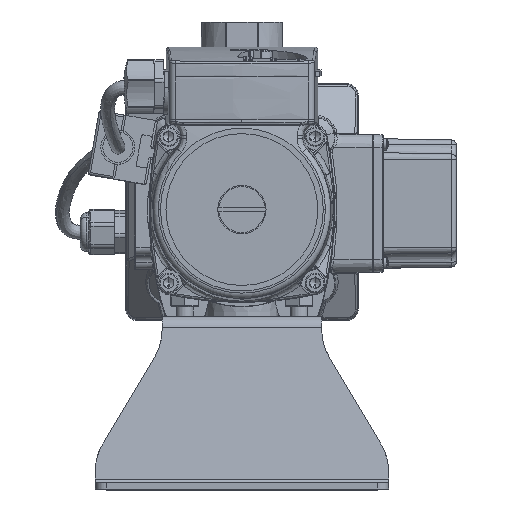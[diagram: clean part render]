
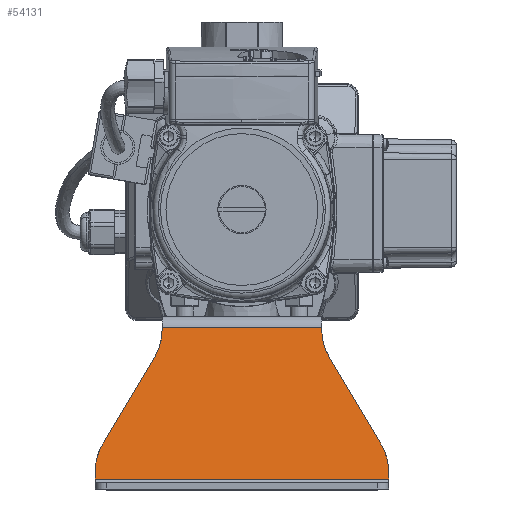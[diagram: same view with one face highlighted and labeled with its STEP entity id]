
A CAD part, top view. The second image highlights one B-rep face of the part: STEP entity #54131.
In plain terms, the highlighted planar face has unit normal (0, 0.174, 0.985).
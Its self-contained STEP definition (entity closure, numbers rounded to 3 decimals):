
#8095=DIRECTION('',(0.,-0.985,0.174));
#8096=VECTOR('',#8095,1.141);
#8097=CARTESIAN_POINT('',(27.69,-414.559,97.636));
#8098=LINE('',#8097,#8096);
#8107=CARTESIAN_POINT('',(-3.31,-481.483,
109.437));
#8108=CARTESIAN_POINT('',(-3.31,-476.904,
108.629));
#8109=CARTESIAN_POINT('',(-2.141,-472.638,
107.877));
#8110=CARTESIAN_POINT('',(0.212,-468.688,
107.181));
#8112=CARTESIAN_POINT('',(24.167,-428.478,100.09));
#8113=CARTESIAN_POINT('',(26.52,-424.528,99.394));
#8114=CARTESIAN_POINT('',(27.69,-420.262,98.642));
#8115=CARTESIAN_POINT('',(27.69,-415.683,97.834));
#8117=CARTESIAN_POINT('',(101.69,-415.683,97.834));
#8118=CARTESIAN_POINT('',(101.69,-420.262,98.642));
#8119=CARTESIAN_POINT('',(102.859,-424.528,99.394));
#8120=CARTESIAN_POINT('',(105.212,-428.478,100.09));
#8122=CARTESIAN_POINT('',(129.167,-468.688,107.181));
#8123=CARTESIAN_POINT('',(131.52,-472.638,107.877));
#8124=CARTESIAN_POINT('',(132.69,-476.904,108.629));
#8125=CARTESIAN_POINT('',(132.69,-481.483,109.437));
#8163=DIRECTION('',(0.,-0.985,0.174));
#8164=VECTOR('',#8163,3.518);
#8165=CARTESIAN_POINT('',(-3.31,-481.483,
109.437));
#8166=LINE('',#8165,#8164);
#8185=DIRECTION('',(1.,0.,0.));
#8186=VECTOR('',#8185,136.);
#8187=CARTESIAN_POINT('',(-3.31,-484.948,
110.048));
#8188=LINE('',#8187,#8186);
#8347=DIRECTION('',(0.,0.985,-0.174));
#8348=VECTOR('',#8347,3.518);
#8349=CARTESIAN_POINT('',(132.69,-484.948,110.048));
#8350=LINE('',#8349,#8348);
#8359=DIRECTION('',(-0.506,0.849,-0.15));
#8360=VECTOR('',#8359,47.339);
#8361=CARTESIAN_POINT('',(129.167,-468.688,107.181));
#8362=LINE('',#8361,#8360);
#8371=DIRECTION('',(0.,0.985,-0.174));
#8372=VECTOR('',#8371,1.141);
#8373=CARTESIAN_POINT('',(101.69,-415.683,97.834));
#8374=LINE('',#8373,#8372);
#8401=DIRECTION('',(-1.,0.,0.));
#8402=VECTOR('',#8401,74.);
#8403=CARTESIAN_POINT('',(101.69,-414.559,97.636));
#8404=LINE('',#8403,#8402);
#8481=DIRECTION('',(-0.506,-0.849,0.15));
#8482=VECTOR('',#8481,47.339);
#8483=CARTESIAN_POINT('',(24.167,-428.478,100.09));
#8484=LINE('',#8483,#8482);
#37121=CARTESIAN_POINT('',(-3.31,-481.483,
109.437));
#37123=VERTEX_POINT('',#37121);
#37125=CARTESIAN_POINT('',(-3.31,-484.948,
110.048));
#37126=VERTEX_POINT('',#37125);
#37138=CARTESIAN_POINT('',(0.212,-468.688,
107.181));
#37139=VERTEX_POINT('',#37138);
#37219=CARTESIAN_POINT('',(132.69,-484.948,
110.048));
#37220=VERTEX_POINT('',#37219);
#37221=CARTESIAN_POINT('',(24.167,-428.478,
100.09));
#37222=VERTEX_POINT('',#37221);
#37223=VERTEX_POINT('',#8115);
#37224=CARTESIAN_POINT('',(27.69,-414.559,
97.636));
#37225=VERTEX_POINT('',#37224);
#37226=CARTESIAN_POINT('',(101.69,-414.559,
97.636));
#37227=VERTEX_POINT('',#37226);
#37228=CARTESIAN_POINT('',(101.69,-415.683,
97.834));
#37229=VERTEX_POINT('',#37228);
#37230=VERTEX_POINT('',#8120);
#37231=CARTESIAN_POINT('',(129.167,-468.688,
107.181));
#37232=VERTEX_POINT('',#37231);
#37233=VERTEX_POINT('',#8125);
#54102=CARTESIAN_POINT('',(-3.31,-409.601,
96.762));
#54103=DIRECTION('',(0.,0.174,0.985));
#54104=DIRECTION('',(0.,-0.985,0.174));
#54105=AXIS2_PLACEMENT_3D('',#54102,#54103,#54104);
#54106=PLANE('',#54105);
#54108=ORIENTED_EDGE('',*,*,#54107,.T.);
#54110=ORIENTED_EDGE('',*,*,#54109,.F.);
#54111=ORIENTED_EDGE('',*,*,#54086,.T.);
#54112=ORIENTED_EDGE('',*,*,#54068,.F.);
#54114=ORIENTED_EDGE('',*,*,#54113,.F.);
#54116=ORIENTED_EDGE('',*,*,#54115,.F.);
#54118=ORIENTED_EDGE('',*,*,#54117,.T.);
#54120=ORIENTED_EDGE('',*,*,#54119,.F.);
#54122=ORIENTED_EDGE('',*,*,#54121,.T.);
#54124=ORIENTED_EDGE('',*,*,#54123,.F.);
#54126=ORIENTED_EDGE('',*,*,#54125,.F.);
#54128=ORIENTED_EDGE('',*,*,#54127,.F.);
#54129=EDGE_LOOP('',(#54108,#54110,#54111,#54112,#54114,#54116,#54118,#54120,
#54122,#54124,#54126,#54128));
#54130=FACE_OUTER_BOUND('',#54129,.F.);
#8111=B_SPLINE_CURVE_WITH_KNOTS('',3,(#8107,#8108,#8109,#8110),.UNSPECIFIED.,
.F.,.F.,(4,4),(0.,1.),.UNSPECIFIED.);
#8116=B_SPLINE_CURVE_WITH_KNOTS('',3,(#8112,#8113,#8114,#8115),.UNSPECIFIED.,
.F.,.F.,(4,4),(0.,1.),.UNSPECIFIED.);
#8121=B_SPLINE_CURVE_WITH_KNOTS('',3,(#8117,#8118,#8119,#8120),.UNSPECIFIED.,
.F.,.F.,(4,4),(0.,1.),.UNSPECIFIED.);
#8126=B_SPLINE_CURVE_WITH_KNOTS('',3,(#8122,#8123,#8124,#8125),.UNSPECIFIED.,
.F.,.F.,(4,4),(0.,1.),.UNSPECIFIED.);
#54068=EDGE_CURVE('',#37225,#37223,#8098,.T.);
#54086=EDGE_CURVE('',#37222,#37223,#8116,.T.);
#54107=EDGE_CURVE('',#37123,#37139,#8111,.T.);
#54109=EDGE_CURVE('',#37222,#37139,#8484,.T.);
#54113=EDGE_CURVE('',#37227,#37225,#8404,.T.);
#54115=EDGE_CURVE('',#37229,#37227,#8374,.T.);
#54117=EDGE_CURVE('',#37229,#37230,#8121,.T.);
#54119=EDGE_CURVE('',#37232,#37230,#8362,.T.);
#54121=EDGE_CURVE('',#37232,#37233,#8126,.T.);
#54123=EDGE_CURVE('',#37220,#37233,#8350,.T.);
#54125=EDGE_CURVE('',#37126,#37220,#8188,.T.);
#54127=EDGE_CURVE('',#37123,#37126,#8166,.T.);
#54131=ADVANCED_FACE('',(#54130),#54106,.T.);
